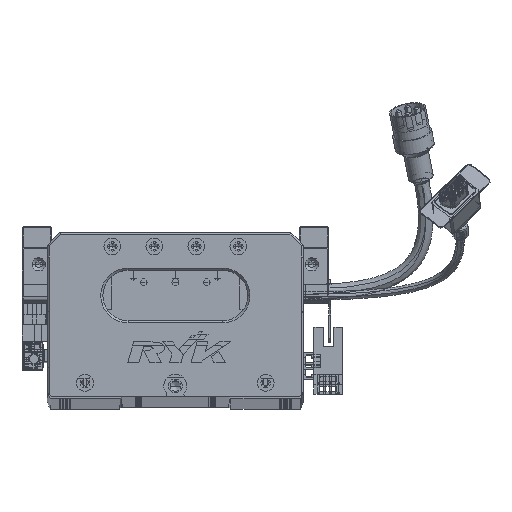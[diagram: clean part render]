
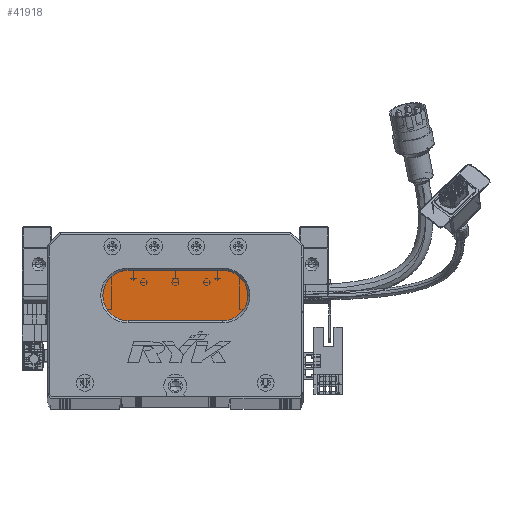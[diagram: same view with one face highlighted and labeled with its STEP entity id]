
A CAD part, top view. The second image highlights one B-rep face of the part: STEP entity #41918.
In plain terms, the highlighted planar face has unit normal (0, 0, 1) as drawn and (0, 0, -1) by its records, which use the part's own axes.
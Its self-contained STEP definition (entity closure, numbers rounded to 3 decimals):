
#2701 = CARTESIAN_POINT ( 'NONE',  ( 83.5, 36., 13. ) ) ;
#4383 = AXIS2_PLACEMENT_3D ( 'NONE', #9283, #68570, #8831 ) ;
#8831 = DIRECTION ( 'NONE',  ( -1., 0., 0. ) ) ;
#9206 = ORIENTED_EDGE ( 'NONE', *, *, #83310, .T. ) ;
#9283 = CARTESIAN_POINT ( 'NONE',  ( 83.5, 48., 13. ) ) ;
#11398 = ORIENTED_EDGE ( 'NONE', *, *, #61544, .T. ) ;
#12940 = CIRCLE ( 'NONE', #125820, 12. ) ;
#13065 = VECTOR ( 'NONE', #108219, 1000. ) ;
#14208 = EDGE_LOOP ( 'NONE', ( #11398, #9206, #95304, #111750, #32856 ) ) ;
#32039 = DIRECTION ( 'NONE',  ( 1., 0., 0. ) ) ;
#32856 = ORIENTED_EDGE ( 'NONE', *, *, #100160, .T. ) ;
#36429 = VERTEX_POINT ( 'NONE', #2701 ) ;
#36839 = LINE ( 'NONE', #97301, #13065 ) ;
#41918 = ADVANCED_FACE ( 'NONE', ( #115944 ), #128950, .T. ) ;
#44995 = DIRECTION ( 'NONE',  ( 0., 0., -1. ) ) ;
#45541 = VERTEX_POINT ( 'NONE', #126861 ) ;
#49484 = AXIS2_PLACEMENT_3D ( 'NONE', #112342, #93460, #102712 ) ;
#51393 = EDGE_CURVE ( 'NONE', #52050, #45541, #70046, .T. ) ;
#52050 = VERTEX_POINT ( 'NONE', #76063 ) ;
#58470 = EDGE_CURVE ( 'NONE', #45541, #122423, #82935, .T. ) ;
#61544 = EDGE_CURVE ( 'NONE', #86529, #36429, #12940, .T. ) ;
#63035 = DIRECTION ( 'NONE',  ( -1., 0., 0. ) ) ;
#68570 = DIRECTION ( 'NONE',  ( 0., 0., -1. ) ) ;
#70046 = CIRCLE ( 'NONE', #127586, 12. ) ;
#75889 = DIRECTION ( 'NONE',  ( -1., 0., 0. ) ) ;
#76063 = CARTESIAN_POINT ( 'NONE',  ( 38.5, 36., 13. ) ) ;
#79708 = LINE ( 'NONE', #113157, #109560 ) ;
#82520 = DIRECTION ( 'NONE',  ( 0., 0., -1. ) ) ;
#82935 = CIRCLE ( 'NONE', #49484, 12. ) ;
#83310 = EDGE_CURVE ( 'NONE', #36429, #52050, #36839, .T. ) ;
#84720 = CARTESIAN_POINT ( 'NONE',  ( 38.5, 48., 13. ) ) ;
#86529 = VERTEX_POINT ( 'NONE', #114181 ) ;
#93460 = DIRECTION ( 'NONE',  ( 0., 0., -1. ) ) ;
#95304 = ORIENTED_EDGE ( 'NONE', *, *, #51393, .T. ) ;
#97301 = CARTESIAN_POINT ( 'NONE',  ( 83.5, 36., 13. ) ) ;
#100160 = EDGE_CURVE ( 'NONE', #122423, #86529, #79708, .T. ) ;
#102712 = DIRECTION ( 'NONE',  ( -1., 0., 0. ) ) ;
#108219 = DIRECTION ( 'NONE',  ( -1., 0., 0. ) ) ;
#109560 = VECTOR ( 'NONE', #32039, 1000. ) ;
#111750 = ORIENTED_EDGE ( 'NONE', *, *, #58470, .T. ) ;
#112342 = CARTESIAN_POINT ( 'NONE',  ( 38.5, 48., 13. ) ) ;
#113157 = CARTESIAN_POINT ( 'NONE',  ( 83.5, 60., 13. ) ) ;
#114181 = CARTESIAN_POINT ( 'NONE',  ( 83.5, 60., 13. ) ) ;
#115944 = FACE_OUTER_BOUND ( 'NONE', #14208, .T. ) ;
#122423 = VERTEX_POINT ( 'NONE', #126835 ) ;
#123452 = CARTESIAN_POINT ( 'NONE',  ( 83.5, 48., 13. ) ) ;
#125820 = AXIS2_PLACEMENT_3D ( 'NONE', #123452, #82520, #63035 ) ;
#126835 = CARTESIAN_POINT ( 'NONE',  ( 38.5, 60., 13. ) ) ;
#126861 = CARTESIAN_POINT ( 'NONE',  ( 26.5, 48., 13. ) ) ;
#127586 = AXIS2_PLACEMENT_3D ( 'NONE', #84720, #44995, #75889 ) ;
#128950 = PLANE ( 'NONE',  #4383 ) ;
